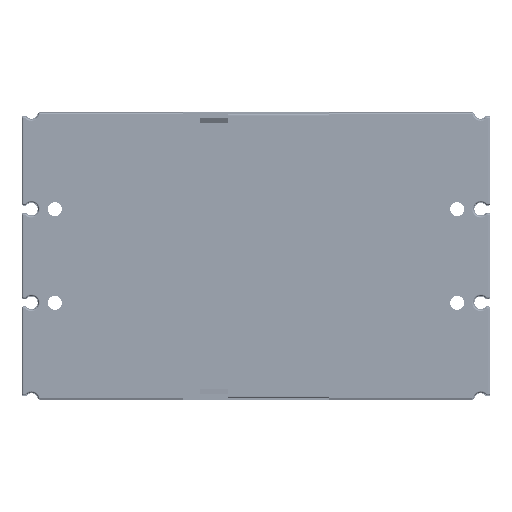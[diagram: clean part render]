
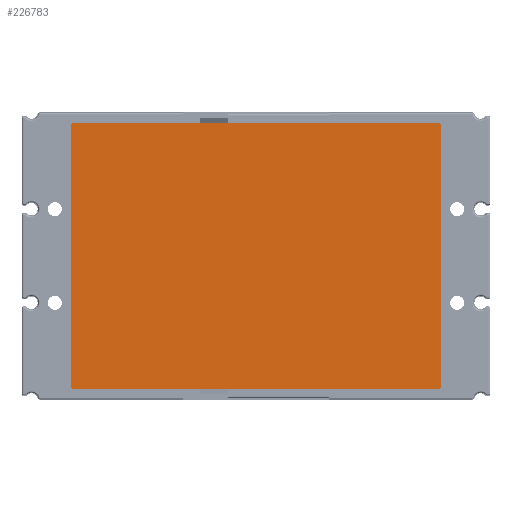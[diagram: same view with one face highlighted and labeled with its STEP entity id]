
A CAD part, front view. The second image highlights one B-rep face of the part: STEP entity #226783.
In plain terms, the highlighted planar face has unit normal (0, -1, 0) as drawn and (0, 0, 1) by its records, which use the part's own axes.
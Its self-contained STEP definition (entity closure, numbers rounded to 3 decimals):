
#226540=DIRECTION('',(0.,-1.,0.));
#226541=VECTOR('',#226540,117.4);
#226542=CARTESIAN_POINT('',(-42.5,117.9,0.8));
#226543=LINE('',#226542,#226541);
#226552=DIRECTION('',(-1.,0.,0.));
#226553=VECTOR('',#226552,84.);
#226554=CARTESIAN_POINT('',(42.,118.4,0.8));
#226555=LINE('',#226554,#226553);
#226564=DIRECTION('',(0.,1.,0.));
#226565=VECTOR('',#226564,117.4);
#226566=CARTESIAN_POINT('',(42.5,0.5,0.8));
#226567=LINE('',#226566,#226565);
#226576=DIRECTION('',(1.,0.,0.));
#226577=VECTOR('',#226576,84.);
#226578=CARTESIAN_POINT('',(-42.,0.,0.8));
#226579=LINE('',#226578,#226577);
#226580=CARTESIAN_POINT('',(-42.,0.5,0.8));
#226581=DIRECTION('',(0.,0.,-1.));
#226582=DIRECTION('',(0.,-1.,0.));
#226583=AXIS2_PLACEMENT_3D('',#226580,#226581,#226582);
#226585=CARTESIAN_POINT('',(-42.,117.9,0.8));
#226586=DIRECTION('',(0.,0.,-1.));
#226587=DIRECTION('',(-1.,0.,0.));
#226588=AXIS2_PLACEMENT_3D('',#226585,#226586,#226587);
#226590=CARTESIAN_POINT('',(42.,117.9,0.8));
#226591=DIRECTION('',(0.,0.,-1.));
#226592=DIRECTION('',(0.,1.,0.));
#226593=AXIS2_PLACEMENT_3D('',#226590,#226591,#226592);
#226595=CARTESIAN_POINT('',(42.,0.5,0.8));
#226596=DIRECTION('',(0.,0.,-1.));
#226597=DIRECTION('',(1.,0.,0.));
#226598=AXIS2_PLACEMENT_3D('',#226595,#226596,#226597);
#226616=CARTESIAN_POINT('',(-42.5,0.5,0.8));
#226617=VERTEX_POINT('',#226616);
#226618=CARTESIAN_POINT('',(-42.,0.,0.8));
#226619=VERTEX_POINT('',#226618);
#226620=CARTESIAN_POINT('',(-42.5,117.9,0.8));
#226621=VERTEX_POINT('',#226620);
#226622=CARTESIAN_POINT('',(-42.,118.4,0.8));
#226623=VERTEX_POINT('',#226622);
#226624=CARTESIAN_POINT('',(42.,118.4,0.8));
#226625=VERTEX_POINT('',#226624);
#226626=CARTESIAN_POINT('',(42.5,117.9,0.8));
#226627=VERTEX_POINT('',#226626);
#226628=CARTESIAN_POINT('',(42.5,0.5,0.8));
#226629=VERTEX_POINT('',#226628);
#226630=CARTESIAN_POINT('',(42.,0.,0.8));
#226631=VERTEX_POINT('',#226630);
#226768=CARTESIAN_POINT('',(0.,0.,0.8));
#226769=DIRECTION('',(0.,0.,1.));
#226770=DIRECTION('',(1.,0.,0.));
#226771=AXIS2_PLACEMENT_3D('',#226768,#226769,#226770);
#226772=PLANE('',#226771);
#226773=ORIENTED_EDGE('',*,*,#226664,.T.);
#226774=ORIENTED_EDGE('',*,*,#226680,.F.);
#226775=ORIENTED_EDGE('',*,*,#226693,.T.);
#226776=ORIENTED_EDGE('',*,*,#226708,.F.);
#226777=ORIENTED_EDGE('',*,*,#226721,.T.);
#226778=ORIENTED_EDGE('',*,*,#226734,.F.);
#226779=ORIENTED_EDGE('',*,*,#226749,.T.);
#226780=ORIENTED_EDGE('',*,*,#226761,.F.);
#226781=EDGE_LOOP('',(#226773,#226774,#226775,#226776,#226777,#226778,#226779,
#226780));
#226782=FACE_OUTER_BOUND('',#226781,.F.);
#226783=ADVANCED_FACE('',(#226782),#226772,.T.);
#226584=CIRCLE('',#226583,0.5);
#226589=CIRCLE('',#226588,0.5);
#226594=CIRCLE('',#226593,0.5);
#226599=CIRCLE('',#226598,0.5);
#226664=EDGE_CURVE('',#226619,#226617,#226584,.T.);
#226680=EDGE_CURVE('',#226621,#226617,#226543,.T.);
#226693=EDGE_CURVE('',#226621,#226623,#226589,.T.);
#226708=EDGE_CURVE('',#226625,#226623,#226555,.T.);
#226721=EDGE_CURVE('',#226625,#226627,#226594,.T.);
#226734=EDGE_CURVE('',#226629,#226627,#226567,.T.);
#226749=EDGE_CURVE('',#226629,#226631,#226599,.T.);
#226761=EDGE_CURVE('',#226619,#226631,#226579,.T.);
